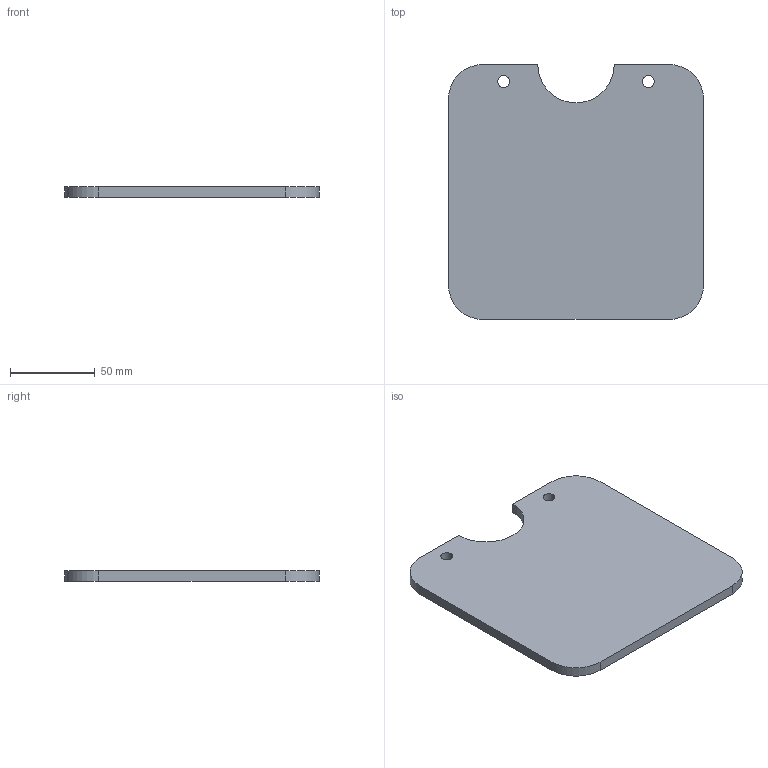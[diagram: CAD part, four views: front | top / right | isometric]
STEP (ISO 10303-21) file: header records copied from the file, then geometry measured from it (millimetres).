
FILE_DESCRIPTION(('CATIA V5 STEP Exchange'),'2;1');
FILE_NAME('D:\姚明阳\1、工装图纸\AGZ100\AGZ100.04_V1.stp','2023-06-06T07:41:09+00:00',('none'),('none'),'CATIA Version 5 Release 21 GA (IN-10)','CATIA V5 STEP AP214','none');
FILE_SCHEMA(('AUTOMOTIVE_DESIGN { 1 0 10303 214 1 1 1 1 }'));
Length unit declared in the file: millimetre
Products named in the file (1): Part1
Bounding box: 150 x 150 x 6 mm (x, y, z)
Volume: 127706.7 mm3; surface area: 46380.9 mm2
Topology: 1 solids, 1 shells, 16 faces, 42 edges, 28 vertices
Faces by surface type: cylinder 9, plane 7
Entity records: 501 total; most frequent: CARTESIAN_POINT 84, ORIENTED_EDGE 84, DIRECTION 68, EDGE_CURVE 42, AXIS2_PLACEMENT_3D 32, VERTEX_POINT 28, VECTOR 24, LINE 24
